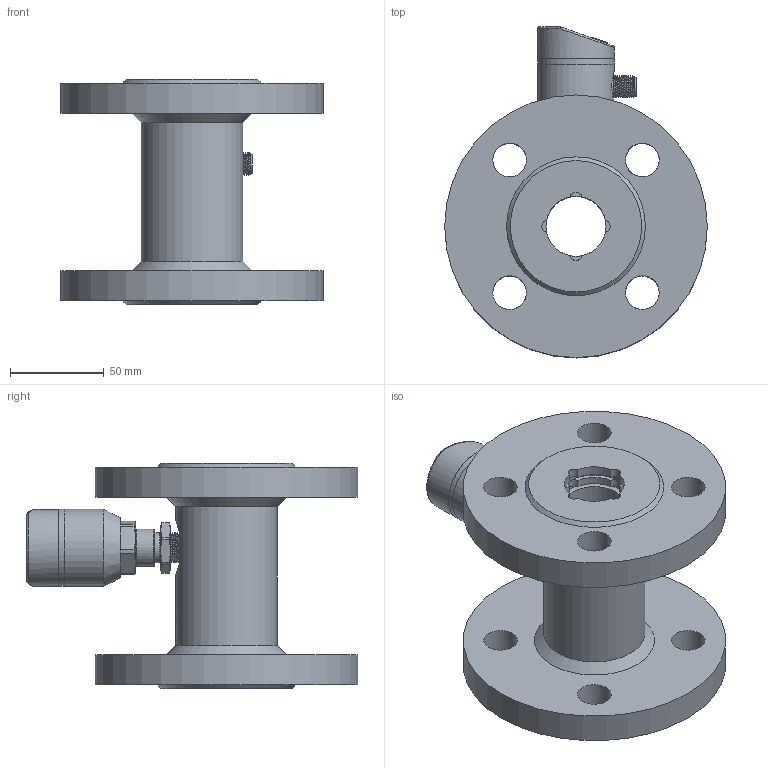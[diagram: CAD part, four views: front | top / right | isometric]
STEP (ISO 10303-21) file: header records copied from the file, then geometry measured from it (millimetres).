
FILE_DESCRIPTION( (''), '2;1');
FILE_NAME( 'QTKA_DN32_flange.step', '2024-01-11T13:41:45+08:00', (''), (''), '', '', '');
FILE_SCHEMA (('AUTOMOTIVE_DESIGN { 1 0 10303 214 3 1 1 1 }'));
Length unit declared in the file: millimetre
Products named in the file (1): QTKA DN32_flange
Bounding box: 140 x 176.8 x 120 mm (x, y, z)
Volume: 606989.1 mm3; surface area: 126191.8 mm2
Topology: 5 solids, 7 shells, 493 faces, 1200 edges, 763 vertices
Faces by surface type: cylinder 182, plane 171, cone 53, bspline 42, torus 39, sphere 6
Full cylindrical faces by diameter (mm): 1 x5, 2.7 x4, 8.4 x1, 9.7 x1, 9.8 x1, 10.1 x1, 11.6 x1, 12 x1, 15.9 x1, 16.5 x1, 18 x8, 20 x1, 23 x3, 26 x4, 26.1 x1, 32 x1, 36.5 x2, 37 x1, 38 x2, 41 x3, 54 x1, 140 x2
Entity records: 31224 total; most frequent: CARTESIAN_POINT 18768, DIRECTION 2290, ORIENTED_EDGE 2166, EDGE_CURVE 1083, AXIS2_PLACEMENT_3D 941, VERTEX_POINT 716, EDGE_LOOP 627, ADVANCED_FACE 491
